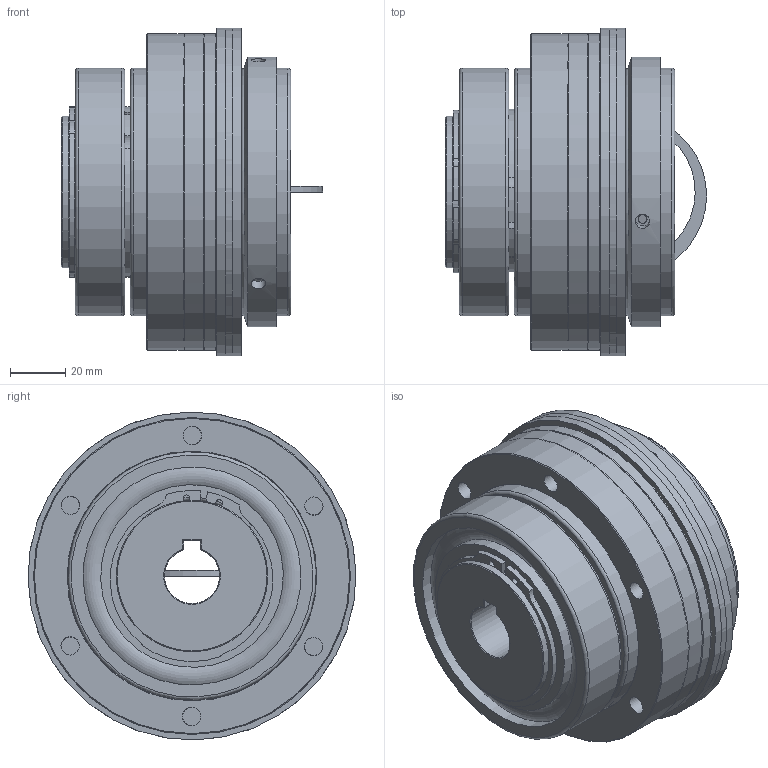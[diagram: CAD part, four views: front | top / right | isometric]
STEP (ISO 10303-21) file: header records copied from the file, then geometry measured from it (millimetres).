
FILE_DESCRIPTION( ( 'Unknown' ), '1' );
FILE_NAME( 'C:/Dokumente und Einstellungen/Sven/Desktop/hp kbk/KBK LL-P-300.stp', 'Unknown', ( 'Unknown' ), ( 'Unknown' ), 'XStep 1.0', 'Unknown', ' ' );
FILE_SCHEMA( ( 'automotive_design' ) );
Length unit declared in the file: millimetre
Products named in the file (10): Assem1; Assem2; ball_bearing_-_6011_0_01; ball_bearing_-_6011_0_02; ball_bearing_-_6011_0_03; Stellring 300; a_55; Kupplung LL-P-300 Grundkörper; Flansch 300; Druckring 300
Bounding box: 94.79 x 119 x 119 mm (x, y, z)
Volume: 1030692.4 mm3; surface area: 314183.8 mm2
Topology: 23 solids, 23 shells, 268 faces, 554 edges, 350 vertices
Faces by surface type: cylinder 116, plane 92, torus 32, cone 28
Full cylindrical faces by diameter (mm): 2.5 x6, 3.242 x6, 5.2 x6, 6.647 x12, 52 x4, 55 x10, 66.3 x8, 76 x4, 79.1 x8, 83.5 x2, 90 x8, 98 x2, 98.5 x2, 115 x4, 119 x2
Entity records: 3193 total; most frequent: CARTESIAN_POINT 733, DIRECTION 494, ORIENTED_EDGE 300, AXIS2_PLACEMENT_3D 229, EDGE_LOOP 200, FACE_OUTER_BOUND 151, EDGE_CURVE 150, VERTEX_POINT 126
